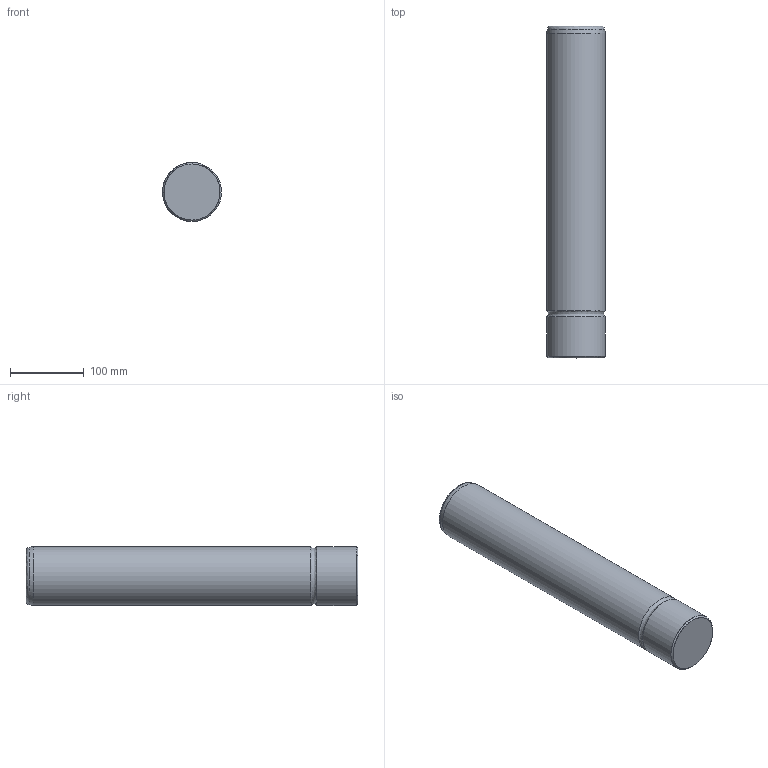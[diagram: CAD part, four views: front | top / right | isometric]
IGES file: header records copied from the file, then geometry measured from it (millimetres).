
Start section: Missler Software BP 521, 31674 Labege Cedex, France Tel   : +33 (0)5 61 00 03 00 Fax   : +33 (0)5 61 00 03 03 Email : sup.topsolid@topsolid.com
Global section: file name: C:\Documents and Settings\EXPER\Desktop\Cuma\D10 Serisi\D10_80450.igs; native system: TopSolid v605250 Missler Software; preprocessor: IGES preprocessor v100000; date: 030101.004847; units: millimetre
Bounding box: 79.96 x 450 x 80 mm (x, y, z)
Surface area: 122658.3 mm2 (no closed solid volume)
Topology: 0 solids, 0 shells, 8 faces, 85 edges, 80 vertices
Faces by surface type: bspline 8
